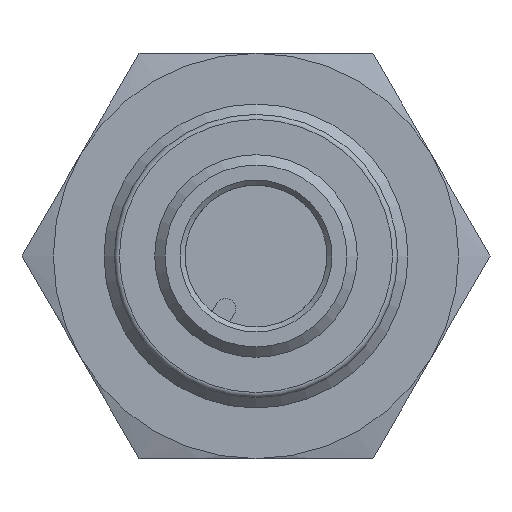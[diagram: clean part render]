
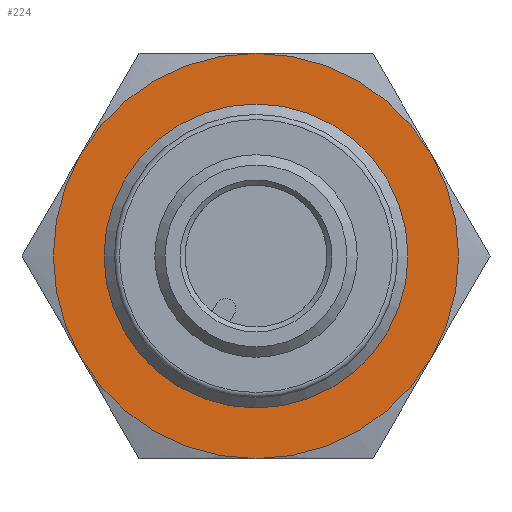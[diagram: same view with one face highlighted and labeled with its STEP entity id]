
A CAD part, left-side view. The second image highlights one B-rep face of the part: STEP entity #224.
In plain terms, the highlighted planar face has unit normal (-1, 0, 0).
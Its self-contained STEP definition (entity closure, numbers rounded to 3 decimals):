
#224 = ADVANCED_FACE( '', ( #352, #353 ), #354, .T. );
#352 = FACE_BOUND( '', #495, .T. );
#353 = FACE_OUTER_BOUND( '', #496, .T. );
#354 = PLANE( '', #497 );
#495 = EDGE_LOOP( '', ( #783 ) );
#496 = EDGE_LOOP( '', ( #784, #785, #786, #787, #788, #789 ) );
#497 = AXIS2_PLACEMENT_3D( '', #790, #791, #792 );
#783 = ORIENTED_EDGE( '', *, *, #931, .T. );
#784 = ORIENTED_EDGE( '', *, *, #932, .F. );
#785 = ORIENTED_EDGE( '', *, *, #929, .F. );
#786 = ORIENTED_EDGE( '', *, *, #933, .F. );
#787 = ORIENTED_EDGE( '', *, *, #926, .F. );
#788 = ORIENTED_EDGE( '', *, *, #930, .F. );
#789 = ORIENTED_EDGE( '', *, *, #934, .F. );
#790 = CARTESIAN_POINT( '', ( 0., 12., 0. ) );
#791 = DIRECTION( '', ( -1., 0., 0. ) );
#792 = DIRECTION( '', ( 0., 0., 1. ) );
#926 = EDGE_CURVE( '', #1018, #1051, #1065, .T. );
#929 = EDGE_CURVE( '', #1045, #1057, #1069, .T. );
#930 = EDGE_CURVE( '', #1066, #1018, #1070, .T. );
#931 = EDGE_CURVE( '', #1071, #1071, #1072, .T. );
#932 = EDGE_CURVE( '', #1057, #1033, #1073, .T. );
#933 = EDGE_CURVE( '', #1051, #1045, #1074, .T. );
#934 = EDGE_CURVE( '', #1033, #1066, #1075, .T. );
#1018 = VERTEX_POINT( '', #1285 );
#1033 = VERTEX_POINT( '', #1327 );
#1045 = VERTEX_POINT( '', #1361 );
#1051 = VERTEX_POINT( '', #1383 );
#1057 = VERTEX_POINT( '', #1409 );
#1065 = CIRCLE( '', #1437, 12. );
#1066 = VERTEX_POINT( '', #1438 );
#1069 = CIRCLE( '', #1451, 12. );
#1070 = CIRCLE( '', #1452, 12. );
#1071 = VERTEX_POINT( '', #1453 );
#1072 = CIRCLE( '', #1454, 9. );
#1073 = CIRCLE( '', #1455, 12. );
#1074 = CIRCLE( '', #1456, 12. );
#1075 = CIRCLE( '', #1457, 12. );
#1285 = CARTESIAN_POINT( '', ( 0., -10.392, 6. ) );
#1327 = CARTESIAN_POINT( '', ( 0., 10.392, 6. ) );
#1361 = CARTESIAN_POINT( '', ( 0., 0., -12. ) );
#1383 = CARTESIAN_POINT( '', ( 0., -10.392, -6. ) );
#1409 = CARTESIAN_POINT( '', ( 0., 10.392, -6. ) );
#1437 = AXIS2_PLACEMENT_3D( '', #1565, #1566, #1567 );
#1438 = CARTESIAN_POINT( '', ( 0., 0., 12. ) );
#1451 = AXIS2_PLACEMENT_3D( '', #1568, #1569, #1570 );
#1452 = AXIS2_PLACEMENT_3D( '', #1571, #1572, #1573 );
#1453 = CARTESIAN_POINT( '', ( 0., 0., -9. ) );
#1454 = AXIS2_PLACEMENT_3D( '', #1574, #1575, #1576 );
#1455 = AXIS2_PLACEMENT_3D( '', #1577, #1578, #1579 );
#1456 = AXIS2_PLACEMENT_3D( '', #1580, #1581, #1582 );
#1457 = AXIS2_PLACEMENT_3D( '', #1583, #1584, #1585 );
#1565 = CARTESIAN_POINT( '', ( 0., 0., 0. ) );
#1566 = DIRECTION( '', ( 1., 0., 0. ) );
#1567 = DIRECTION( '', ( 0., 0., -1. ) );
#1568 = CARTESIAN_POINT( '', ( 0., 0., 0. ) );
#1569 = DIRECTION( '', ( 1., 0., 0. ) );
#1570 = DIRECTION( '', ( 0., 0., -1. ) );
#1571 = CARTESIAN_POINT( '', ( 0., 0., 0. ) );
#1572 = DIRECTION( '', ( 1., 0., 0. ) );
#1573 = DIRECTION( '', ( 0., 0., -1. ) );
#1574 = CARTESIAN_POINT( '', ( 0., 0., 0. ) );
#1575 = DIRECTION( '', ( 1., 0., 0. ) );
#1576 = DIRECTION( '', ( 0., 0., -1. ) );
#1577 = CARTESIAN_POINT( '', ( 0., 0., 0. ) );
#1578 = DIRECTION( '', ( 1., 0., 0. ) );
#1579 = DIRECTION( '', ( 0., 0., -1. ) );
#1580 = CARTESIAN_POINT( '', ( 0., 0., 0. ) );
#1581 = DIRECTION( '', ( 1., 0., 0. ) );
#1582 = DIRECTION( '', ( 0., 0., -1. ) );
#1583 = CARTESIAN_POINT( '', ( 0., 0., 0. ) );
#1584 = DIRECTION( '', ( 1., 0., 0. ) );
#1585 = DIRECTION( '', ( 0., 0., -1. ) );
